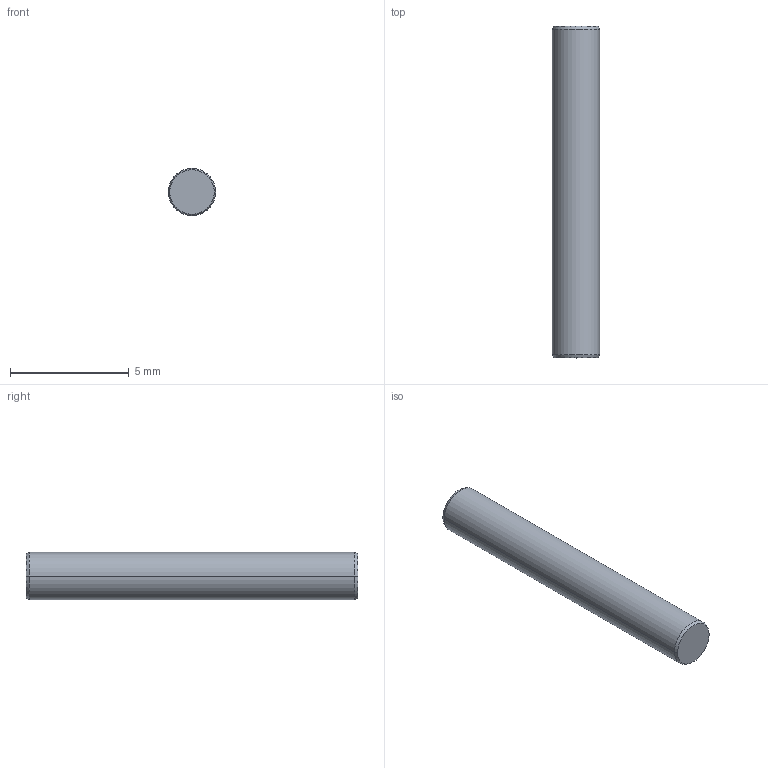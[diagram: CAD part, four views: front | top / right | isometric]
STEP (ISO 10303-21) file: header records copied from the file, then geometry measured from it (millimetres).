
FILE_DESCRIPTION((''),'2;1');
FILE_NAME('2X14MMSS_PIN','2024-02-22T15:49:11',('qinghui.yi'),(''),'CREO PARAMETRIC BY PTC INC, 2019164','CREO PARAMETRIC BY PTC INC, 2019164','');
FILE_SCHEMA(('CONFIG_CONTROL_DESIGN','SHAPE_APPEARANCE_LAYERS_GROUPS'));
Length unit declared in the file: millimetre
Products named in the file (1): 2X14MMSS_PIN
Bounding box: 2 x 14 x 2 mm (x, y, z)
Volume: 43.9 mm3; surface area: 93.6 mm2
Topology: 1 solids, 1 shells, 8 faces, 28 edges, 28 vertices
Faces by surface type: cone 4, plane 2, cylinder 2
Entity records: 698 total; most frequent: COLOUR_RGB 312, DIRECTION 62, CARTESIAN_POINT 53, ORIENTED_EDGE 44, AXIS2_PLACEMENT_3D 25, EDGE_CURVE 22, VERTEX_POINT 16, CIRCLE 16
